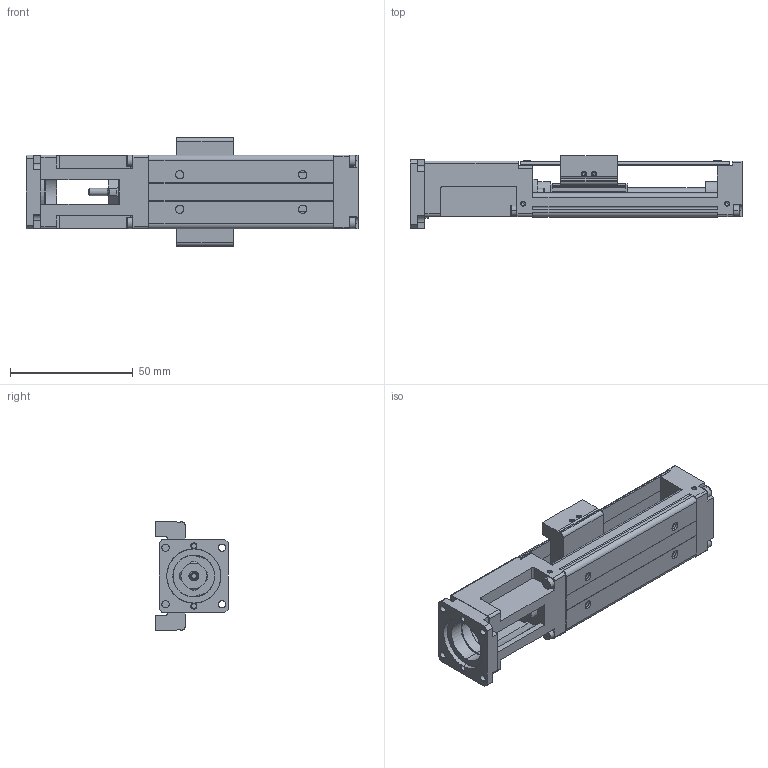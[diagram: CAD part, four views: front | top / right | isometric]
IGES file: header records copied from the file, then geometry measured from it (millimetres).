
Start section: SolidWorks IGES file using analytic representation for surfaces
Global section: file name: C:\Users\render\Documents\CAD Files\Integrated-Actuators\PA-Series\PA15\PA-15-75.IGS; native system: SolidWorks 2009; preprocessor: SolidWorks 2009; author: render; date: 100610.091136; units: millimetre
Bounding box: 135 x 29.5 x 44 mm (x, y, z)
Surface area: 34082.4 mm2 (no closed solid volume)
Topology: 0 solids, 0 shells, 651 faces, 7692 edges, 7648 vertices
Faces by surface type: revolution 336, bspline 315
